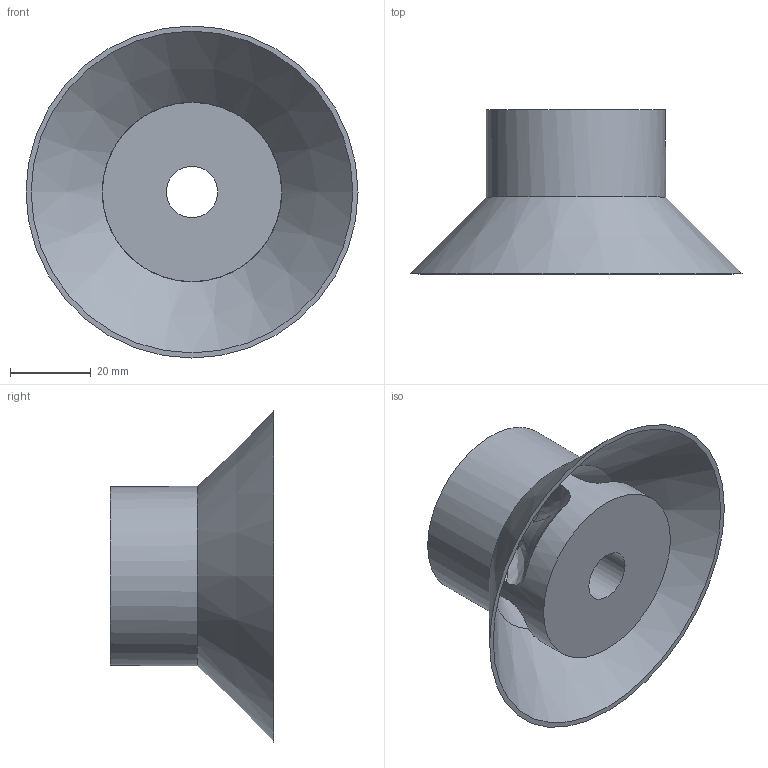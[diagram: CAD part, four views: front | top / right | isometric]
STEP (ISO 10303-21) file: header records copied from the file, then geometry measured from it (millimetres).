
FILE_DESCRIPTION(/* description */ (''),/* implementation_level */ '2;1');
FILE_NAME(/* name */ 'C:/Users/Owner/Desktop/KCAD 3Dp Fuel Filter Baffles Gen1/STEP Versions/1.75DIAx1.6 High Baffles STEP/1.75 Dia 50 CAL Baffle STEP.step',/* time_stamp */ '2019-06-01T15:59:40-04:00',/* author */ (''),/* organization */ (''),/* preprocessor_version */ 'ST-DEVELOPER v18',/* originating_system */ 'Autodesk Translation Framework v8.2.0.1029',/* authorisation */ '');
FILE_SCHEMA (('AUTOMOTIVE_DESIGN { 1 0 10303 214 3 1 1 }'));
Length unit declared in the file: inch
Products named in the file (1): baf 1.75 dia 1.6 high 50 cal
Bounding box: 82.3 x 40.64 x 82.3 mm (x, y, z)
Volume: 48376.2 mm3; surface area: 23754 mm2
Topology: 1 solids, 1 shells, 36 faces, 126 edges, 85 vertices
Faces by surface type: plane 15, bspline 13, cylinder 4, cone 2, torus 2
Full cylindrical faces by diameter (mm): 12.7 x2, 44.45 x2
Entity records: 2219 total; most frequent: CARTESIAN_POINT 1228, ORIENTED_EDGE 252, DIRECTION 136, EDGE_CURVE 126, VERTEX_POINT 85, B_SPLINE_CURVE_WITH_KNOTS 70, AXIS2_PLACEMENT_3D 57, EDGE_LOOP 39
